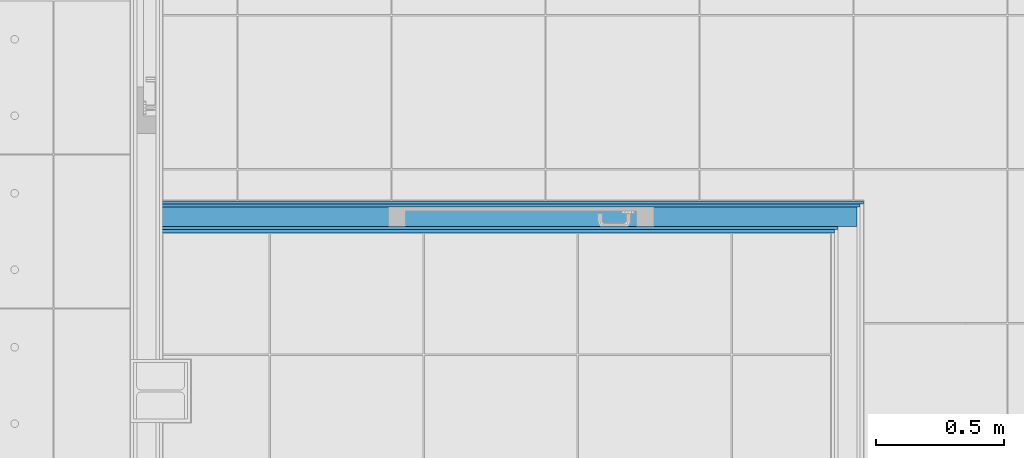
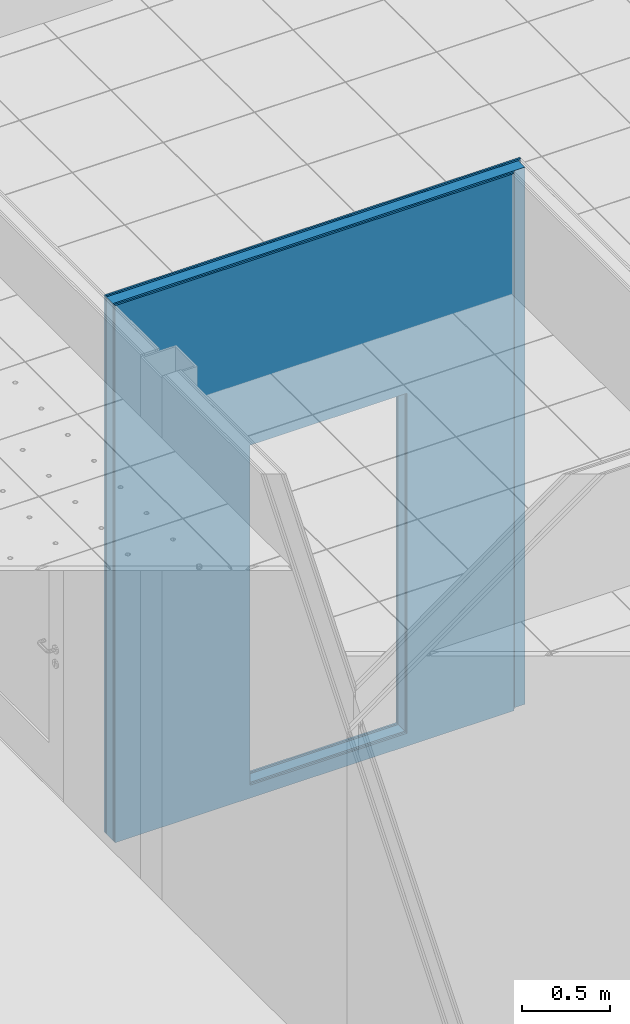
# One storey, part 26 of 338: 5 building element parts, 1 opening, 1 element without a shape of its own.
"""IFC2X3 building model written with IfcOpenShell, lengths in millimetres."""

from ifc_helpers import new_model, entity, si_unit, converted_unit, derived_unit, money_unit, direction, frame, origin_with_axes, place, context, subcontext, project, spatial, faceted_brep, material, type_object, element, aggregate, save


model = new_model("IFC2X3")

# Units and contexts
model_context = context("Model", 3, precision=0.01, world=origin_with_axes(), true_north=direction((0.0, 1.0)))
plan_context = context("Plan", 3, precision=0.01, world=origin_with_axes(), true_north=direction((0.0, 1.0)))
body_context = subcontext(model_context, "Body", "Model", "MODEL_VIEW")
ifc_project = project(units=[si_unit("LENGTHUNIT", "METRE", prefix="MILLI"), si_unit("AREAUNIT", "SQUARE_METRE"), si_unit("VOLUMEUNIT", "CUBIC_METRE"), converted_unit("PLANEANGLEUNIT", "DEGREE", entity("IfcPlaneAngleMeasure", 0.0174532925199), si_unit("PLANEANGLEUNIT", "RADIAN"), dimensions=[0, 0, 0, 0, 0, 0, 0]), money_unit("EUR"), converted_unit("TIMEUNIT", "Year", entity("IfcTimeMeasure", 31556926.0), si_unit("TIMEUNIT", "SECOND"), dimensions=[0, 0, 1, 0, 0, 0, 0]), si_unit("MASSUNIT", "GRAM", prefix="KILO"), si_unit("THERMODYNAMICTEMPERATUREUNIT", "DEGREE_CELSIUS"), si_unit("LUMINOUSINTENSITYUNIT", "LUMEN"), si_unit("ENERGYUNIT", "JOULE", prefix="MEGA"), derived_unit("THERMALCONDUCTANCEUNIT", [(si_unit("POWERUNIT", "WATT"), 1), (si_unit("LENGTHUNIT", "METRE"), -1), (si_unit("THERMODYNAMICTEMPERATUREUNIT", "KELVIN"), -1)]), derived_unit("SPECIFICHEATCAPACITYUNIT", [(si_unit("ENERGYUNIT", "JOULE"), 1), (si_unit("MASSUNIT", "GRAM", prefix="KILO"), -1), (si_unit("THERMODYNAMICTEMPERATUREUNIT", "KELVIN"), -1)]), derived_unit("MASSDENSITYUNIT", [(si_unit("MASSUNIT", "GRAM", prefix="KILO"), 1), (si_unit("VOLUMEUNIT", "CUBIC_METRE"), -1)])], contexts=[model_context, plan_context])

# Site, building, storey
site_placement = place(None, origin_with_axes())
site = spatial("IfcSite", under=ifc_project, at=site_placement, Name="Fortuinstraat Woensdrecht", CompositionType="ELEMENT")
building_placement = place(site_placement, origin_with_axes())
building = spatial("IfcBuilding", under=site, at=building_placement, Name="IKC Fortuna", CompositionType="ELEMENT")
storey_placement = place(building_placement, origin_with_axes())
storey = spatial("IfcBuildingStorey", under=building, at=storey_placement, Name="00 begane grond", CompositionType="ELEMENT", Elevation=0.0)

# Wall, opening, building element parts
wall_type = type_object("IfcWallType", Name="MS125 2.75.2A 125", PredefinedType="NOTDEFINED")
wall_placement = place(storey_placement, frame((23307.9349765, 24838.1911384, -90.0), z_axis=(0.0, 0.0, 1.0), x_axis=(-1.0, 0.0, 0.0)))
wall = element("IfcWall", 1, at=wall_placement, inside=storey, type_object=wall_type, Name="22_Wand_Binnenwand")
opening_placement = place(wall_placement, frame((1333.32084106, 0.0, 90.0), z_axis=(0.0, 0.0, 1.0), x_axis=(1.0, 0.0, 0.0)))
element("IfcOpeningElement", 2, at=opening_placement, cuts=wall, Name="32_Deur_h.01b", context=body_context, shape_type="Brep", body=[
    faceted_brep([(517.0, -250.0, 2367.0), (517.0, -250.0, 0.0), (517.0, 125.0, 0.0), (517.0, 125.0, 2367.0), (-517.0, -250.0, 2367.0), (-517.0, -250.0, 0.0), (-517.0, 125.0, 0.0), (-517.0, 125.0, 2367.0)], [[[0, 1, 2, 3]], [[0, 4, 5, 1]], [[1, 5, 6, 2]], [[3, 2, 6, 7]], [[4, 0, 3, 7]], [[5, 4, 7, 6]]]),
])
ifc_material_1 = material(Name="Gipsplaat")
building_element_part_1_placement = place(wall_placement, origin_with_axes())
building_element_part_1 = element("IfcBuildingElementPart", 3, at=building_element_part_1_placement, material=ifc_material_1, Name="Gipsplaat", context=body_context, shape_type="Brep", body=[
    faceted_brep([(2738.5, 125.0, 0.0), (112.5, 125.0, 0.0), (112.5, 125.0, 3740.0), (2738.5, 125.0, 3740.0), (1850.32084106, 125.0, 90.0), (1850.32084106, 125.0, 2457.0), (816.320841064, 125.0, 2457.0), (816.320841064, 125.0, 90.0), (2738.5, 112.5, 0.0), (112.5, 112.5, 0.0), (112.5, 112.5, 3740.0), (2738.5, 112.5, 3740.0), (1850.32084106, 112.5, 90.0), (1850.32084106, 112.5, 2457.0), (816.320841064, 112.5, 2457.0), (816.320841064, 112.5, 90.0)], [[[0, 1, 2, 3], [4, 5, 6, 7]], [[8, 9, 1, 0]], [[2, 1, 9, 10]], [[3, 2, 10, 11]], [[8, 0, 3, 11]], [[12, 13, 5, 4]], [[13, 14, 6, 5]], [[14, 15, 7, 6]], [[15, 12, 4, 7]], [[11, 10, 9, 8], [12, 15, 14, 13]]]),
])
building_element_part_2_placement = place(wall_placement, origin_with_axes())
building_element_part_2 = element("IfcBuildingElementPart", 4, at=building_element_part_2_placement, material=ifc_material_1, Name="Gipsplaat", context=body_context, shape_type="Brep", body=[
    faceted_brep([(2738.5, 112.5, 0.0), (100.0, 112.5, 0.0), (100.0, 112.5, 3740.0), (2738.5, 112.5, 3740.0), (1850.32084106, 112.5, 90.0), (1850.32084106, 112.5, 2457.0), (816.320841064, 112.5, 2457.0), (816.320841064, 112.5, 90.0), (2738.5, 100.0, 0.0), (100.0, 100.0, 0.0), (100.0, 100.0, 3740.0), (2738.5, 100.0, 3740.0), (1850.32084106, 100.0, 90.0), (1850.32084106, 100.0, 2457.0), (816.320841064, 100.0, 2457.0), (816.320841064, 100.0, 90.0)], [[[0, 1, 2, 3], [4, 5, 6, 7]], [[8, 9, 1, 0]], [[2, 1, 9, 10]], [[3, 2, 10, 11]], [[8, 0, 3, 11]], [[12, 13, 5, 4]], [[13, 14, 6, 5]], [[14, 15, 7, 6]], [[15, 12, 4, 7]], [[11, 10, 9, 8], [12, 15, 14, 13]]]),
])
ifc_material_2 = material(Name="Isolatie - Steenwol LSW")
building_element_part_3_placement = place(wall_placement, origin_with_axes())
building_element_part_3 = element("IfcBuildingElementPart", 5, at=building_element_part_3_placement, material=ifc_material_2, Name="Isolatie - Steenwol LSW", context=body_context, shape_type="Brep", body=[
    faceted_brep([(2738.5, 100.0, 0.0), (25.0, 100.0, 0.0), (25.0, 100.0, 3740.0), (2738.5, 100.0, 3740.0), (1850.32084106, 100.0, 90.0), (1850.32084106, 100.0, 2457.0), (816.320841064, 100.0, 2457.0), (816.320841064, 100.0, 90.0), (2738.5, 25.0, 0.0), (25.0, 25.0, 0.0), (25.0, 25.0, 3740.0), (2738.5, 25.0, 3740.0), (1850.32084106, 25.0, 90.0), (1850.32084106, 25.0, 2457.0), (816.320841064, 25.0, 2457.0), (816.320841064, 25.0, 90.0)], [[[0, 1, 2, 3], [4, 5, 6, 7]], [[8, 9, 1, 0]], [[2, 1, 9, 10]], [[3, 2, 10, 11]], [[8, 0, 3, 11]], [[12, 13, 5, 4]], [[13, 14, 6, 5]], [[14, 15, 7, 6]], [[15, 12, 4, 7]], [[11, 10, 9, 8], [12, 15, 14, 13]]]),
])
building_element_part_4_placement = place(wall_placement, origin_with_axes())
building_element_part_4 = element("IfcBuildingElementPart", 6, at=building_element_part_4_placement, material=ifc_material_1, Name="Gipsplaat", context=body_context, shape_type="Brep", body=[
    faceted_brep([(2738.5, 25.0, 0.0), (12.5, 25.0, 0.0), (12.5, 25.0, 3740.0), (2738.5, 25.0, 3740.0), (1850.32084106, 25.0, 90.0), (1850.32084106, 25.0, 2457.0), (816.320841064, 25.0, 2457.0), (816.320841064, 25.0, 90.0), (2738.5, 12.5, 0.0), (12.5, 12.5, 0.0), (12.5, 12.5, 3740.0), (2738.5, 12.5, 3740.0), (1850.32084106, 12.5, 90.0), (1850.32084106, 12.5, 2457.0), (816.320841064, 12.5, 2457.0), (816.320841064, 12.5, 90.0)], [[[0, 1, 2, 3], [4, 5, 6, 7]], [[8, 9, 1, 0]], [[2, 1, 9, 10]], [[3, 2, 10, 11]], [[8, 0, 3, 11]], [[12, 13, 5, 4]], [[13, 14, 6, 5]], [[14, 15, 7, 6]], [[15, 12, 4, 7]], [[11, 10, 9, 8], [12, 15, 14, 13]]]),
])
building_element_part_5_placement = place(wall_placement, origin_with_axes())
building_element_part_5 = element("IfcBuildingElementPart", 7, at=building_element_part_5_placement, material=ifc_material_1, Name="Gipsplaat", context=body_context, shape_type="Brep", body=[
    faceted_brep([(2738.5, 12.5, 0.0), (0.0, 12.5, 0.0), (0.0, 12.5, 3740.0), (2738.5, 12.5, 3740.0), (1850.32084106, 12.5, 90.0), (1850.32084106, 12.5, 2457.0), (816.320841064, 12.5, 2457.0), (816.320841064, 12.5, 90.0), (2738.5, 0.0, 0.0), (0.0, 0.0, 0.0), (0.0, 0.0, 3740.0), (2738.5, 0.0, 3740.0), (1850.32084106, 0.0, 90.0), (1850.32084106, 0.0, 2457.0), (816.320841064, 0.0, 2457.0), (816.320841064, 0.0, 90.0)], [[[0, 1, 2, 3], [4, 5, 6, 7]], [[8, 9, 1, 0]], [[2, 1, 9, 10]], [[3, 2, 10, 11]], [[8, 0, 3, 11]], [[12, 13, 5, 4]], [[13, 14, 6, 5]], [[14, 15, 7, 6]], [[15, 12, 4, 7]], [[11, 10, 9, 8], [12, 15, 14, 13]]]),
])
aggregate(wall, [building_element_part_1, building_element_part_2, building_element_part_3, building_element_part_4, building_element_part_5])

save(model, "model.ifc")
